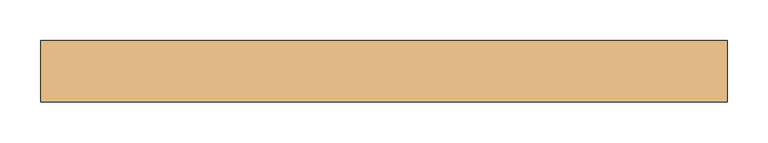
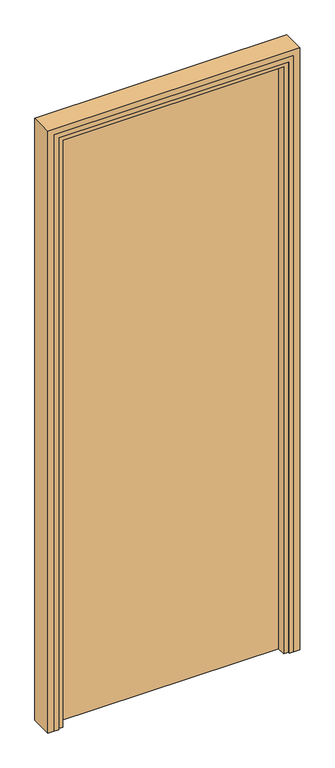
"""IFC4 building model written with IfcOpenShell, lengths in millimetres: door geometry, VERTI PANORAMA - dveřní panel : PANORAMA - dveřní panel."""

from ifc_helpers import new_model, si_unit, frame, origin, origin_with_axes, place, context, project, spatial, polyline, outline, extrude, faceted_brep, source, transform, mapped, element, save


def door_1990c3bd(model_context):
    return source(origin(), model_context, "Body", "SolidModel", [
        extrude(outline(polyline([(384.0, 37.5), (384.0, -2.5), (-384.0, -2.5), (-384.0, 37.5), (384.0, 37.5)])), origin_with_axes(), (0.0, 0.0, 1.0), 2084.0),
        extrude(outline(polyline([(0.0, 400.0), (0.0, 420.0), (2120.0, 420.0), (2120.0, -420.0), (0.0, -420.0), (0.0, -400.0), (2100.0, -400.0), (2100.0, 400.0), (0.0, 400.0)])), frame((0.0, -37.5, 0.0), z_axis=(0.0, 1.0, 0.0), x_axis=(0.0, 0.0, 1.0)), (0.0, 0.0, 1.0), 75.0),
        faceted_brep([(-384.0, -37.5, 0.0), (-400.0, -37.5, 0.0), (-400.0, 37.5, 0.0), (-384.0, 37.5, 0.0), (-384.0, -2.5, 0.0), (-368.0, -2.5, 0.0), (-368.0, -32.5, 0.0), (-384.0, -32.5, 0.0), (-384.0, -37.5, 2084.0), (384.0, -37.5, 2084.0), (384.0, -37.5, 0.0), (400.0, -37.5, 0.0), (400.0, -37.5, 2100.0), (-400.0, -37.5, 2100.0), (-400.0, 37.5, 2100.0), (400.0, 37.5, 2100.0), (400.0, 37.5, 0.0), (384.0, 37.5, 0.0), (384.0, 37.5, 2084.0), (-384.0, 37.5, 2084.0), (-384.0, -2.5, 2084.0), (384.0, -2.5, 2084.0), (384.0, -2.5, 0.0), (368.0, -2.5, 0.0), (368.0, -2.5, 2068.0), (-368.0, -2.5, 2068.0), (-368.0, -32.5, 2068.0), (368.0, -32.5, 2068.0), (368.0, -32.5, 0.0), (384.0, -32.5, 0.0), (384.0, -32.5, 2084.0), (-384.0, -32.5, 2084.0)], [[[0, 1, 2, 3, 4, 5, 6, 7]], [[1, 0, 8, 9, 10, 11, 12, 13]], [[2, 1, 13, 14]], [[3, 2, 14, 15, 16, 17, 18, 19]], [[4, 3, 19, 20]], [[5, 4, 20, 21, 22, 23, 24, 25]], [[6, 5, 25, 26]], [[7, 6, 26, 27, 28, 29, 30, 31]], [[0, 7, 31, 8]], [[9, 30, 29, 10]], [[10, 29, 28, 23, 22, 17, 16, 11]], [[15, 12, 11, 16]], [[21, 18, 17, 22]], [[27, 24, 23, 28]], [[8, 31, 30, 9]], [[14, 13, 12, 15]], [[20, 19, 18, 21]], [[26, 25, 24, 27]]]),
    ])


if __name__ == "__main__":
    model = new_model("IFC4")
    model_context = context("Model", 3, world=origin())
    ifc_project = project(units=[si_unit("LENGTHUNIT", "METRE", prefix="MILLI")], contexts=[model_context])
    site = spatial("IfcSite", under=ifc_project)
    building = spatial("IfcBuilding", under=site)
    placement = place(None, origin())
    door_shape = door_1990c3bd(model_context)
    element("IfcDoor", 1, ObjectType="VERTI PANORAMA - dveřní panel : PANORAMA - dveřní panel", at=placement, inside=building, context=model_context, shape_type="MappedRepresentation", body=[
        mapped(door_shape, transform((0.0, 0.0, 0.0), x_axis=(1.0, 0.0, 0.0), y_axis=(0.0, 1.0, 0.0), z_axis=(0.0, 0.0, 1.0))),
    ])
    save(model, "model.ifc")
